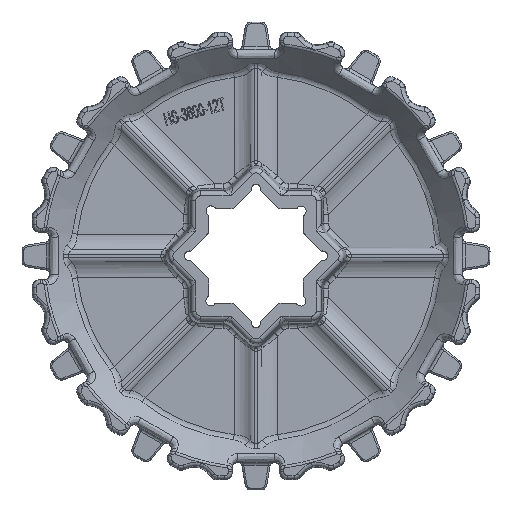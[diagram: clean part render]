
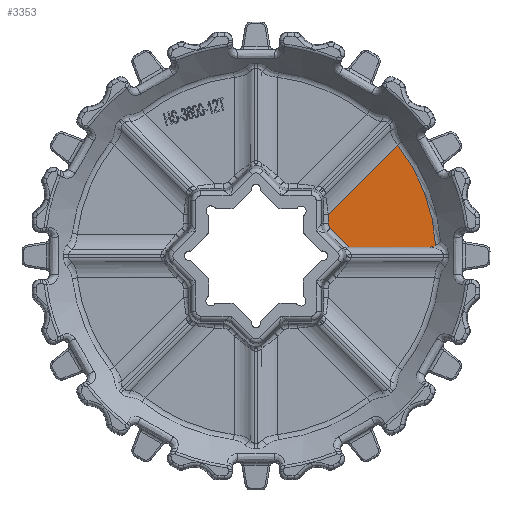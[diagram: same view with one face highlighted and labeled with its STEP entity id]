
A CAD part, top view. The second image highlights one B-rep face of the part: STEP entity #3353.
In plain terms, the highlighted planar face has unit normal (0, 0, 1).
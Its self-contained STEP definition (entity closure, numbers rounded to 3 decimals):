
#1540=FACE_OUTER_BOUND('',#9948,.T.);
#3353=ADVANCED_FACE('',(#1540),#5177,.F.);
#5177=PLANE('',#28132);
#5613=CIRCLE('',#28131,72.757);
#6637=ELLIPSE('',#28130,3.013,3.);
#7123=LINE('',#38030,#8483);
#7124=LINE('',#38033,#8484);
#7125=LINE('',#38037,#8485);
#7126=LINE('',#38039,#8486);
#8483=VECTOR('',#30790,1.);
#8484=VECTOR('',#30791,1.);
#8485=VECTOR('',#30794,1.);
#8486=VECTOR('',#30795,1.);
#9948=EDGE_LOOP('',(#11868,#11869,#11870,#11871,#11872,#11873,#11874));
#11868=ORIENTED_EDGE('',*,*,#22664,.T.);
#11869=ORIENTED_EDGE('',*,*,#22665,.T.);
#11870=ORIENTED_EDGE('',*,*,#22666,.T.);
#11871=ORIENTED_EDGE('',*,*,#22667,.T.);
#11872=ORIENTED_EDGE('',*,*,#22668,.T.);
#11873=ORIENTED_EDGE('',*,*,#22669,.T.);
#11874=ORIENTED_EDGE('',*,*,#22670,.T.);
#20260=VERTEX_POINT('',#38031);
#20261=VERTEX_POINT('',#38032);
#20262=VERTEX_POINT('',#38034);
#20263=VERTEX_POINT('',#38036);
#20264=VERTEX_POINT('',#38038);
#20265=VERTEX_POINT('',#38040);
#20266=VERTEX_POINT('',#38045);
#22664=EDGE_CURVE('',#20260,#20261,#7123,.T.);
#22665=EDGE_CURVE('',#20261,#20262,#7124,.T.);
#22666=EDGE_CURVE('',#20262,#20263,#6637,.T.);
#22667=EDGE_CURVE('',#20263,#20264,#7125,.T.);
#22668=EDGE_CURVE('',#20264,#20265,#7126,.T.);
#22669=EDGE_CURVE('',#20265,#20266,#26848,.T.);
#22670=EDGE_CURVE('',#20266,#20260,#5613,.T.);
#26848=B_SPLINE_CURVE_WITH_KNOTS('',3,(#38041,#38042,#38043,#38044),
 .UNSPECIFIED.,.F.,.F.,(4,4),(0.,1.),.UNSPECIFIED.);
#28130=AXIS2_PLACEMENT_3D('',#38035,#30792,#30793);
#28131=AXIS2_PLACEMENT_3D('',#38046,#30796,#30797);
#28132=AXIS2_PLACEMENT_3D('',#38047,#30798,#30799);
#30790=DIRECTION('',(-0.707,-0.707,0.));
#30791=DIRECTION('',(0.,-1.,0.));
#30792=DIRECTION('',(0.,0.,1.));
#30793=DIRECTION('',(-0.924,-0.383,0.));
#30794=DIRECTION('',(0.707,-0.707,0.));
#30795=DIRECTION('',(1.,0.,0.));
#30796=DIRECTION('',(0.,0.,1.));
#30797=DIRECTION('',(-1.,0.,0.));
#30798=DIRECTION('',(0.,0.,-1.));
#30799=DIRECTION('',(-1.,0.,0.));
#38030=CARTESIAN_POINT('',(6.227,-6.227,3.));
#38031=CARTESIAN_POINT('',(57.296,44.842,3.));
#38032=CARTESIAN_POINT('',(29.199,16.744,3.));
#38033=CARTESIAN_POINT('',(29.199,13.399,3.));
#38034=CARTESIAN_POINT('',(29.199,13.332,3.));
#38035=CARTESIAN_POINT('',(32.21,13.342,3.));
#38036=CARTESIAN_POINT('',(30.074,11.219,3.));
#38037=CARTESIAN_POINT('',(36.497,4.796,3.));
#38038=CARTESIAN_POINT('',(37.793,3.5,3.));
#38039=CARTESIAN_POINT('',(0.,3.5,3.));
#38040=CARTESIAN_POINT('',(69.454,3.5,3.));
#38041=CARTESIAN_POINT('',(69.454,3.5,3.));
#38042=CARTESIAN_POINT('',(70.56,3.5,3.));
#38043=CARTESIAN_POINT('',(71.689,3.64,3.));
#38044=CARTESIAN_POINT('',(72.634,4.231,3.));
#38045=CARTESIAN_POINT('',(72.634,4.231,3.));
#38046=CARTESIAN_POINT('',(0.,0.,3.));
#38047=CARTESIAN_POINT('',(0.,0.,3.));
